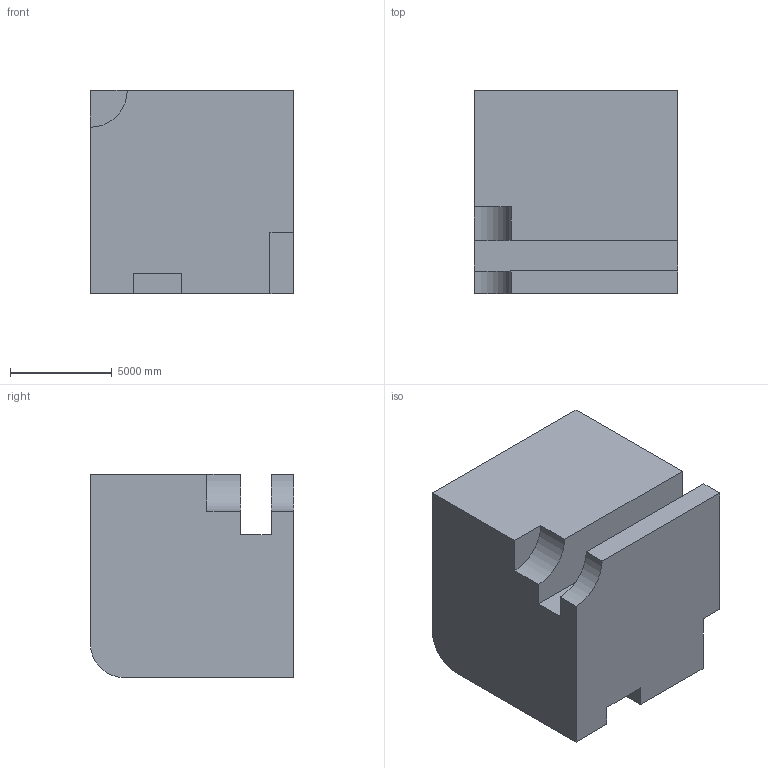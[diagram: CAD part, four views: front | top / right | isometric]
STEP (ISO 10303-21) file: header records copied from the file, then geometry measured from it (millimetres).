
FILE_DESCRIPTION (( 'STEP AP203' ), '1' );
FILE_NAME ('454.STEP', '2022-07-29T11:20:51', ( 'user' ), ( '' ), 'SwSTEP 2.0', 'SolidWorks 2021', '' );
FILE_SCHEMA (( 'CONFIG_CONTROL_DESIGN' ));
Length unit declared in the file: centimetre
Products named in the file (1): 454
Bounding box: 10000 x 10000 x 10000 mm (x, y, z)
Volume: 925352687244.8 mm3; surface area: 644916296.5 mm2
Topology: 1 solids, 1 shells, 21 faces, 57 edges, 38 vertices
Faces by surface type: plane 18, cylinder 3
Entity records: 734 total; most frequent: CARTESIAN_POINT 117, ORIENTED_EDGE 114, DIRECTION 107, EDGE_CURVE 57, VECTOR 51, LINE 51, VERTEX_POINT 38, AXIS2_PLACEMENT_3D 28
